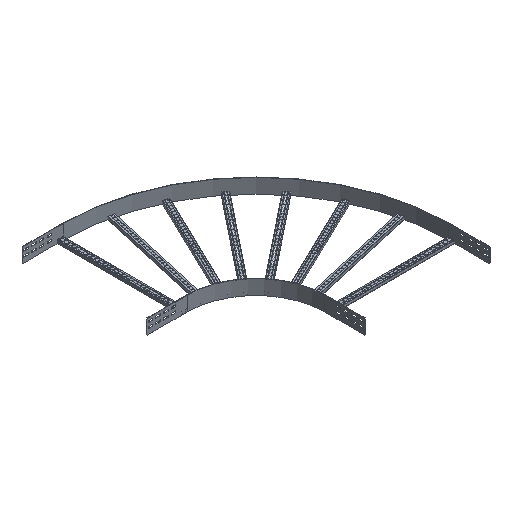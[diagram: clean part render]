
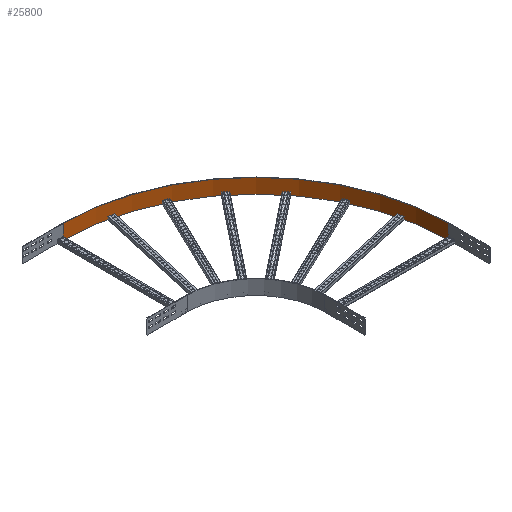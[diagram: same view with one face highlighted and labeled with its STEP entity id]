
A CAD part, isometric view. The second image highlights one B-rep face of the part: STEP entity #25800.
In plain terms, the highlighted cylindrical face has radius 1255 mm (diameter 2510 mm), a partial arc.
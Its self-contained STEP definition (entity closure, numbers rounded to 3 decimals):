
#7590=CARTESIAN_POINT('',(-88.974,-442.088,
-1148.394));
#7600=VERTEX_POINT('',#7590);
#7630=CARTESIAN_POINT('',(-88.974,-442.088,
-1053.394));
#7640=DIRECTION('',(0.,0.,1.));
#7650=VECTOR('',#7640,1.);
#7660=LINE('',#7630,#7650);
#7670=CARTESIAN_POINT('',(-88.974,-442.088,
-1053.394));
#7680=VERTEX_POINT('',#7670);
#7690=EDGE_CURVE('',#7600,#7680,#7660,.T.);
#20040=CARTESIAN_POINT('',(-1343.974,812.912,
-1053.394));
#20050=VERTEX_POINT('',#20040);
#20080=CARTESIAN_POINT('',(-1343.974,812.912,
-1053.394));
#20090=DIRECTION('',(0.,0.,1.));
#20100=VECTOR('',#20090,1.);
#20110=LINE('',#20080,#20100);
#20120=CARTESIAN_POINT('',(-1343.974,812.912,
-1148.394));
#20130=VERTEX_POINT('',#20120);
#20140=EDGE_CURVE('',#20130,#20050,#20110,.T.);
#25070=CARTESIAN_POINT('',(-1343.974,-442.088,
-1148.394));
#25080=DIRECTION('',(0.,0.,1.));
#25090=DIRECTION('',(1.,0.,0.));
#25100=AXIS2_PLACEMENT_3D('',#25070,#25080,#25090);
#25110=CIRCLE('',#25100,1255.);
#25120=EDGE_CURVE('',#7600,#20130,#25110,.T.);
#25560=CARTESIAN_POINT('',(-1343.974,-442.088,
-1053.394));
#25570=DIRECTION('',(0.,0.,1.));
#25580=DIRECTION('',(1.,0.,0.));
#25590=AXIS2_PLACEMENT_3D('',#25560,#25570,#25580);
#25600=CIRCLE('',#25590,1255.);
#25610=EDGE_CURVE('',#7680,#20050,#25600,.T.);
#25690=CARTESIAN_POINT('',(-1343.974,-442.088,
-1053.394));
#25700=DIRECTION('',(0.,0.,1.));
#25710=DIRECTION('',(1.,0.,0.));
#25720=AXIS2_PLACEMENT_3D('',#25690,#25700,#25710);
#25730=CYLINDRICAL_SURFACE('',#25720,1255.);
#25740=ORIENTED_EDGE('',*,*,#25610,.T.);
#25750=ORIENTED_EDGE('',*,*,#7690,.T.);
#25760=ORIENTED_EDGE('',*,*,#25120,.F.);
#25770=ORIENTED_EDGE('',*,*,#20140,.F.);
#25780=EDGE_LOOP('',(#25770,#25760,#25750,#25740));
#25790=FACE_OUTER_BOUND('',#25780,.T.);
#25800=ADVANCED_FACE('',(#25790),#25730,.F.);
